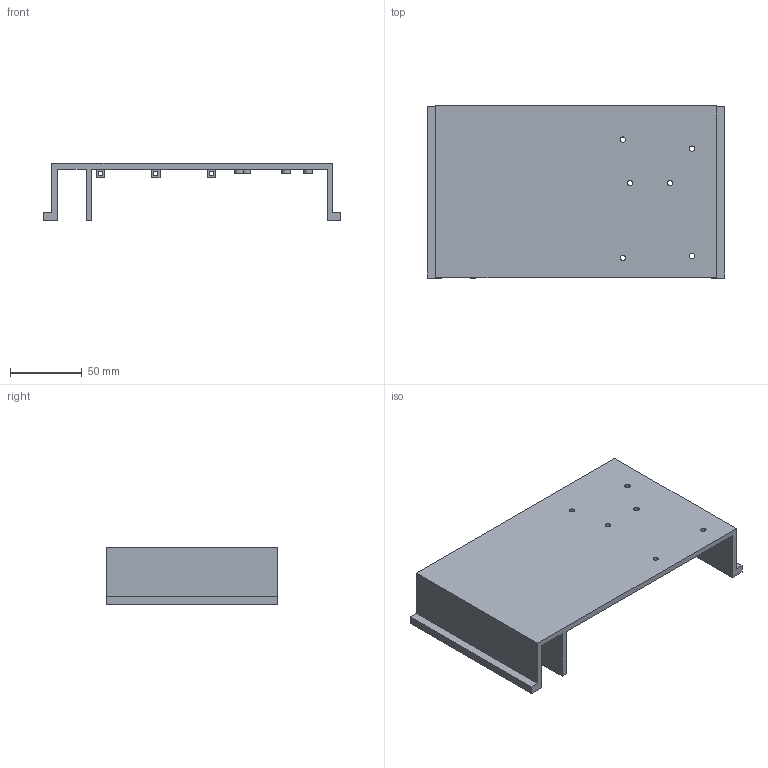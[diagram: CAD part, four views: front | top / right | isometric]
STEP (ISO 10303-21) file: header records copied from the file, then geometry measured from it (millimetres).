
FILE_DESCRIPTION(/* description */ (''),/* implementation_level */ '2;1');
FILE_NAME(/* name */ '/Users/davidflorian/Library/Mobile Documents/com~apple~CloudDocs/Vanderbilt/Papers/OTTO/Supplemental Material/3D-Printable-Components-STEP-Files/Electronics-Tray-1.step',/* time_stamp */ '2020-06-30T23:19:53-05:00',/* author */ (''),/* organization */ (''),/* preprocessor_version */ 'ST-DEVELOPER v18.1',/* originating_system */ 'Autodesk Translation Framework v9.3.0.1241',/* authorisation */ '');
FILE_SCHEMA (('AUTOMOTIVE_DESIGN { 1 0 10303 214 3 1 1 }'));
Length unit declared in the file: millimetre
Products named in the file (1): Electronics Tray
Bounding box: 207.6 x 120 x 40 mm (x, y, z)
Volume: 152433.1 mm3; surface area: 80944.5 mm2
Topology: 1 solids, 1 shells, 217 faces, 573 edges, 382 vertices
Faces by surface type: plane 173, bspline 31, cylinder 13
Full cylindrical faces by diameter (mm): 3.75 x6, 6 x6
Entity records: 6988 total; most frequent: CARTESIAN_POINT 1700, ORIENTED_EDGE 1146, DIRECTION 911, EDGE_CURVE 573, LINE 485, VECTOR 485, VERTEX_POINT 382, EDGE_LOOP 267
